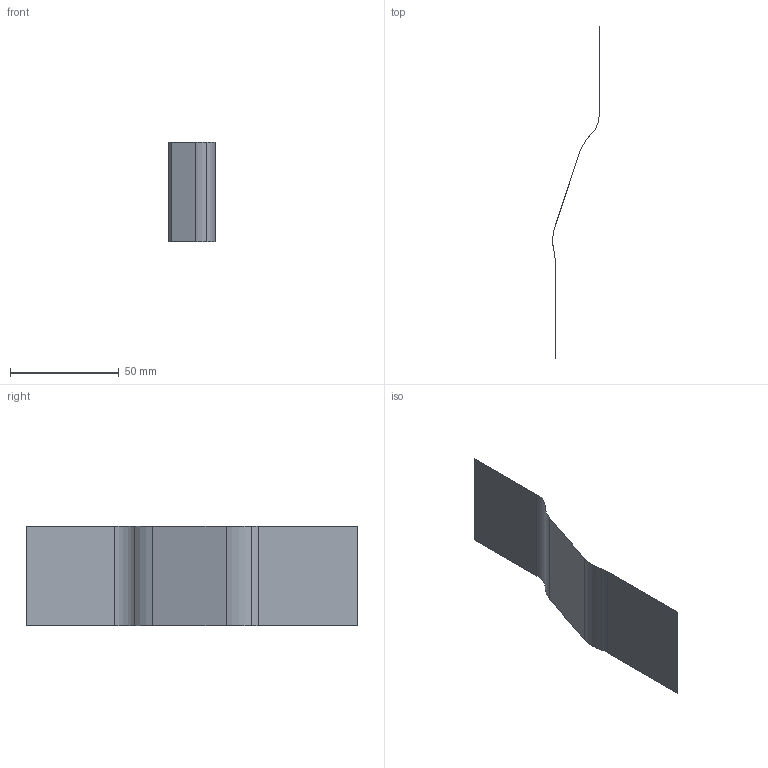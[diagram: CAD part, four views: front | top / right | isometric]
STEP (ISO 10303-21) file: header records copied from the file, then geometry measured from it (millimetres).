
FILE_DESCRIPTION( ( 'STEP Version 203' ), '1' );
FILE_NAME( 'D:/malberts/CCX/CCC/CCC_2012/ANSYS_ACP_Training_Material_V145/WORKSHOP_SOLID_MODELING_PLY_DROP_OFF/CUT_OFF_GEOMETRY.stp', '11/27/12 02:09:20', ( 'malberts' ), ( ' ' ), 'PSStep 14.0', 'DesignModeler STEP Output', ' ' );
FILE_SCHEMA( ( 'CONFIG_CONTROL_DESIGN' ) );
Length unit declared in the file: metre
Products named in the file (1): 1
Bounding box: 21.36 x 152.4 x 45.72 mm (x, y, z)
Surface area: 7181.4 mm2 (no closed solid volume)
Topology: 0 solids, 7 shells, 7 faces, 28 edges, 28 vertices
Faces by surface type: cylinder 4, plane 3
Entity records: 340 total; most frequent: CARTESIAN_POINT 64, DIRECTION 52, ORIENTED_EDGE 28, EDGE_CURVE 28, VERTEX_POINT 28, LINE 20, VECTOR 20, AXIS2_PLACEMENT_3D 16
